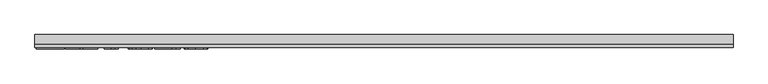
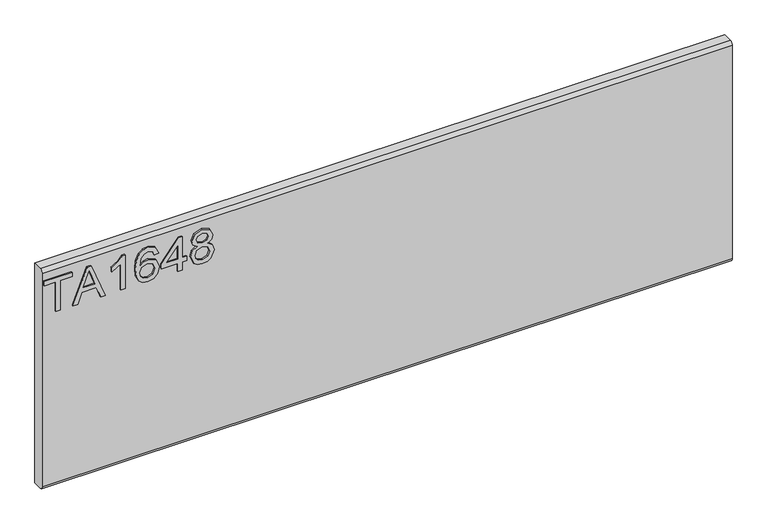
"""IFC4 building model written with IfcOpenShell, lengths in millimetres: furniture geometry."""

from ifc_helpers import new_model, si_unit, frame, origin, place, context, project, spatial, polyline, circle_curve, outline, extrude, source, transform, mapped, element, save
from ifc_brep_helpers import plane_surface, cylinder_surface, advanced_brep


def furniture_a22bda66(model_context):
    return source(origin(), model_context, "Body", "SolidModel", [
        extrude(outline(polyline([(882.65, -580.7807692), (882.65, -572.9653846), (937.3576923, -572.9653846), (937.3576923, -552.45), (945.1730769, -552.45), (945.1730769, -601.2961538), (937.3576923, -601.2961538), (937.3576923, -580.7807692), (882.65, -580.7807692)])), frame((0.0, -15.0812439, 0.0), z_axis=(0.0, 1.0, 0.0), x_axis=(0.0, 0.0, 1.0)), (0.0, 0.0, 1.0), 2.38125),
        extrude(outline(polyline([(882.65, -550.9388221), (882.65, -542.6807692), (902.1884615, -535.5370192), (902.1884615, -509.7859375), (882.65, -502.6269231), (882.65, -494.3688702), (945.1730769, -519.3262019), (945.1730769, -525.9814904), (882.65, -550.9388221)]), holes=[polyline([(910.0038462, -532.6673077), (926.7183894, -526.546274), (937.3576923, -522.6538462), (925.3751202, -518.2729567), (910.0038462, -512.6403846), (910.0038462, -532.6673077)])]), frame((0.0, -15.0812439, 0.0), z_axis=(0.0, 1.0, 0.0), x_axis=(0.0, 0.0, 1.0)), (0.0, 0.0, 1.0), 2.38125),
        extrude(outline(polyline([(882.65, -459.6423077), (945.1730769, -459.6423077), (945.1730769, -464.6795673), (936.8539663, -471.632512), (929.5423077, -483.0884615), (922.1543269, -483.0884615), (926.1001803, -474.8609375), (931.3740385, -467.4576923), (882.65, -467.4576923), (882.65, -459.6423077)])), frame((0.0, -15.0812439, 0.0), z_axis=(0.0, 1.0, 0.0), x_axis=(0.0, 0.0, 1.0)), (0.0, 0.0, 1.0), 2.38125),
        extrude(outline(polyline([(928.5653846, -401.0269231), (940.7616587, -406.796875), (945.1730769, -419.1457933), (943.3909555, -428.2166767), (938.0445913, -435.2192308), (927.4014724, -440.3480769), (911.8355769, -442.0576923), (897.9907452, -440.5178936), (888.6947115, -435.8984976), (883.4284856, -428.8367939), (881.6730769, -419.9700721), (884.3214543, -409.7276442), (891.9536659, -402.6296875), (902.7379808, -400.05), (917.1323317, -405.5299279), (922.7038462, -418.809976), (920.6660457, -427.3504207), (914.4305288, -434.2423077), (928.3593149, -432.0213341), (935.4649038, -426.6864183), (937.3576923, -419.6342548), (934.1063702, -411.8036058), (927.5884615, -408.8423077), (928.5653846, -401.0269231)]), holes=[polyline([(902.8600962, -434.2423077), (911.5684495, -430.357512), (914.8884615, -420.9012019), (911.5684495, -411.3227764), (902.4784856, -407.8653846), (892.9840144, -411.3685697), (889.4884615, -420.580649), (891.1751803, -427.6251803), (896.0903245, -432.4334736), (902.8600962, -434.2423077)])]), frame((0.0, -15.0812439, 0.0), z_axis=(0.0, 1.0, 0.0), x_axis=(0.0, 0.0, 1.0)), (0.0, 0.0, 1.0), 2.38125),
        extrude(outline(polyline([(882.65, -367.8115385), (882.65, -359.9961538), (897.3038462, -359.9961538), (897.3038462, -352.1807692), (905.1192308, -352.1807692), (905.1192308, -359.9961538), (944.1961538, -359.9961538), (944.1961538, -365.8576923), (905.1192308, -396.1423077), (897.3038462, -396.1423077), (897.3038462, -367.8115385), (882.65, -367.8115385)]), holes=[polyline([(905.1192308, -367.8115385), (905.1192308, -386.5257212), (929.2675481, -367.8115385), (905.1192308, -367.8115385)])]), frame((0.0, -15.0812439, 0.0), z_axis=(0.0, 1.0, 0.0), x_axis=(0.0, 0.0, 1.0)), (0.0, 0.0, 1.0), 2.38125),
        extrude(outline(polyline([(917.0865385, -333.9550481), (911.4081731, -342.3810096), (901.0588942, -345.3423077), (887.2216947, -339.6944712), (883.0602314, -333.1536659), (881.6730769, -324.8269231), (883.0545072, -316.5001803), (887.1987981, -309.959375), (900.8451923, -304.3115385), (910.9578726, -307.1583534), (917.0865385, -315.4698317), (921.9177284, -308.5474159), (929.2828125, -306.2653846), (940.5479567, -311.3942308), (945.1730769, -324.933774), (940.6548077, -338.3512019), (929.4965144, -343.3884615), (921.940625, -341.0759014), (917.0865385, -333.9550481)]), holes=[polyline([(929.2675481, -335.5730769), (934.9764423, -332.7567909), (937.3576923, -324.8269231), (934.9230168, -316.9199519), (928.9164663, -314.0807692), (923.1159856, -316.8283654), (920.75, -324.7353365), (923.13125, -332.8025841), (929.2675481, -335.5730769)]), polyline([(901.3336538, -337.5269231), (909.6222356, -334.2221755), (912.9346154, -325.0253606), (909.5764423, -315.5614183), (901.0894231, -312.1269231), (892.7626803, -315.4545673), (889.4884615, -324.7658654), (891.0454327, -331.6043269), (895.4492188, -336.2218149), (901.3336538, -337.5269231)])]), frame((0.0, -15.0812439, 0.0), z_axis=(0.0, 1.0, 0.0), x_axis=(0.0, 0.0, 1.0)), (0.0, 0.0, 1.0), 2.38125),
        advanced_brep(
        [(603.25, 9.5250061, 965.2), (603.25, -6.7309939, 965.2), (603.25, -12.6999939, 959.231), (603.25, -12.6999939, 564.769), (603.25, -6.7309939, 558.8), (603.25, 9.5250061, 558.8), (-603.25, 9.5250061, 965.2), (-603.25, 9.5250061, 558.8), (-603.25, -6.7309939, 558.8), (-603.25, -12.6999939, 564.769), (-603.25, -12.6999939, 959.2310121), (-603.25, -6.7309939, 965.2)],
        [
            (0, 1),
            (1, 2, circle_curve(frame((603.25, -6.7309939, 959.231), z_axis=(1.0, 0.0, 0.0), x_axis=(0.0, 1.0, 0.0)), 5.969)),
            (2, 3),
            (3, 4, circle_curve(frame((603.25, -6.7309939, 564.769), z_axis=(1.0, 0.0, 0.0), x_axis=(0.0, 1.0, 0.0)), 5.969)),
            (4, 5),
            (5, 0),
            (6, 7),
            (7, 8),
            (8, 9, circle_curve(frame((-603.25, -6.7309939, 564.769), z_axis=(-1.0, 0.0, 0.0), x_axis=(0.0, 1.0, 0.0)), 5.969)),
            (9, 10),
            (10, 11, circle_curve(frame((-603.25, -6.7309939, 959.231), z_axis=(-1.0, 0.0, 0.0), x_axis=(0.0, 1.0, 0.0)), 5.969)),
            (11, 6),
            (0, 6),
            (11, 1),
            (10, 2),
            (9, 3),
            (8, 4),
            (7, 5),
        ],
        [
            plane_surface(frame((603.25, -6.7309939, 965.2), z_axis=(1.0, 0.0, 0.0), x_axis=(0.0, -1.0, 0.0))),
            plane_surface(frame((-603.25, -6.7309939, 965.2), z_axis=(-1.0, 0.0, 0.0), x_axis=(0.0, 1.0, 0.0))),
            plane_surface(frame((603.25, 9.5250061, 965.2), z_axis=(0.0, 0.0, 1.0), x_axis=(-1.0, 0.0, 0.0))),
            cylinder_surface(frame((-603.25, -6.7309939, 959.231), z_axis=(1.0, 0.0, 0.0), x_axis=(0.0, 1.0, 0.0)), 5.969),
            plane_surface(frame((603.25, -12.6999939, 959.2310121), z_axis=(0.0, -1.0, 0.0), x_axis=(-1.0, 0.0, 0.0))),
            cylinder_surface(frame((-603.25, -6.7309939, 564.769), z_axis=(1.0, 0.0, 0.0), x_axis=(0.0, 1.0, 0.0)), 5.969),
            plane_surface(frame((603.25, -6.7309939, 558.8), z_axis=(0.0, 0.0, -1.0), x_axis=(-1.0, 0.0, 0.0))),
            plane_surface(frame((603.25, 9.5250061, 558.8), z_axis=(0.0, 1.0, 0.0), x_axis=(-1.0, 0.0, 0.0))),
        ],
        [
            (0, [[1, 2, 3, 4, 5, 6]]),
            (1, [[7, 8, 9, 10, 11, 12]]),
            (2, [[-1, 13, -12, 14]]),
            (3, [[-2, -14, -11, 15]]),
            (4, [[-3, -15, -10, 16]]),
            (5, [[-4, -16, -9, 17]]),
            (6, [[-5, -17, -8, 18]]),
            (7, [[-6, -18, -7, -13]]),
        ],
    ),
    ])


if __name__ == "__main__":
    model = new_model("IFC4")
    model_context = context("Model", 3, world=origin())
    ifc_project = project(units=[si_unit("LENGTHUNIT", "METRE", prefix="MILLI")], contexts=[model_context])
    site = spatial("IfcSite", under=ifc_project)
    building = spatial("IfcBuilding", under=site)
    placement = place(None, origin())
    furniture_shape = furniture_a22bda66(model_context)
    element("IfcFurniture", 1, ObjectType="HermanMiller_Ethospace_E1422_TackableTile : 16\"H x 48\"W", at=placement, inside=building, context=model_context, shape_type="MappedRepresentation", body=[
        mapped(furniture_shape, transform((0.0, 0.0, 0.0), x_axis=(1.0, 0.0, 0.0), y_axis=(0.0, 1.0, 0.0), z_axis=(0.0, 0.0, 1.0))),
    ])
    save(model, "model.ifc")
